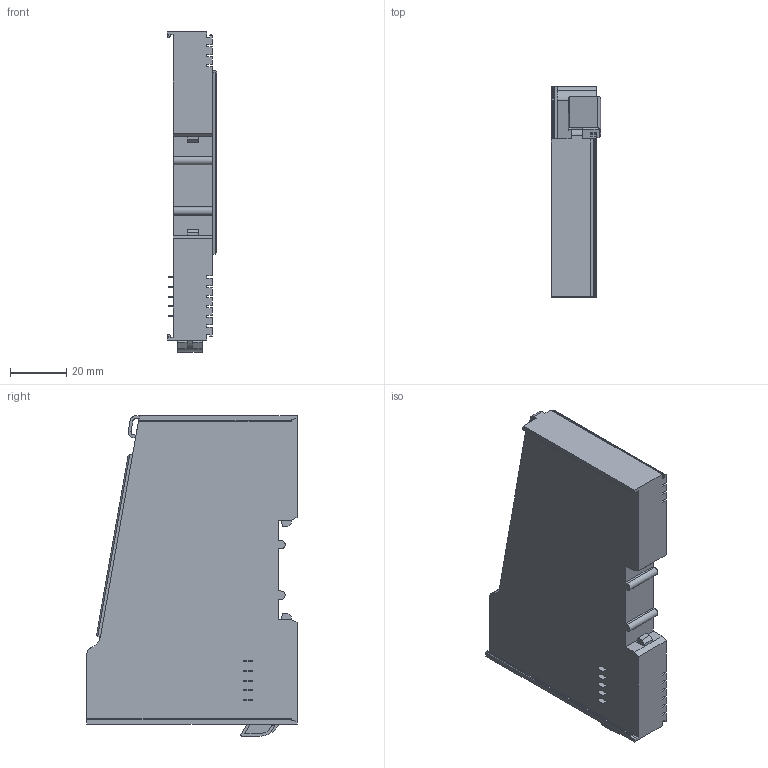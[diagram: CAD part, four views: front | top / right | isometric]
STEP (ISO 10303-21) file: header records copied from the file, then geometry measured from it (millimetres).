
FILE_DESCRIPTION (( 'STEP AP214' ), '1' );
FILE_NAME ('CT5800.STEP', '2023-07-12T08:20:57', ( '' ), ( '' ), 'SwSTEP 2.0', 'SolidWorks 2021', '' );
FILE_SCHEMA (( 'AUTOMOTIVE_DESIGN' ));
Length unit declared in the file: millimetre
Products named in the file (1): CT5800
Bounding box: 17.5 x 75 x 114.33 mm (x, y, z)
Volume: 99741.5 mm3; surface area: 23697.1 mm2
Topology: 1 solids, 1 shells, 302 faces, 836 edges, 554 vertices
Faces by surface type: plane 213, bspline 66, cylinder 23
Entity records: 12889 total; most frequent: CARTESIAN_POINT 5567, ORIENTED_EDGE 1672, DIRECTION 1213, EDGE_CURVE 836, LINE 653, VECTOR 653, VERTEX_POINT 554, EDGE_LOOP 322
